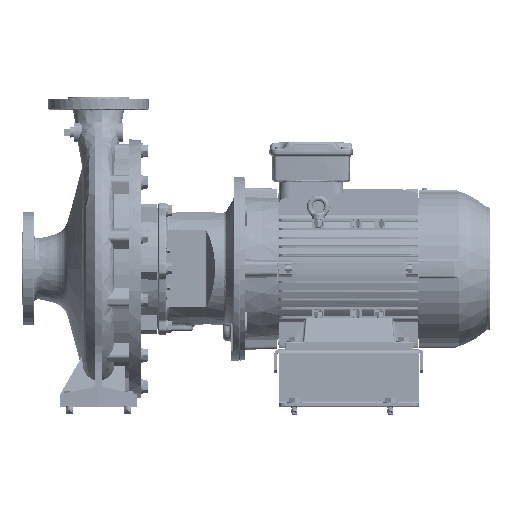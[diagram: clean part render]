
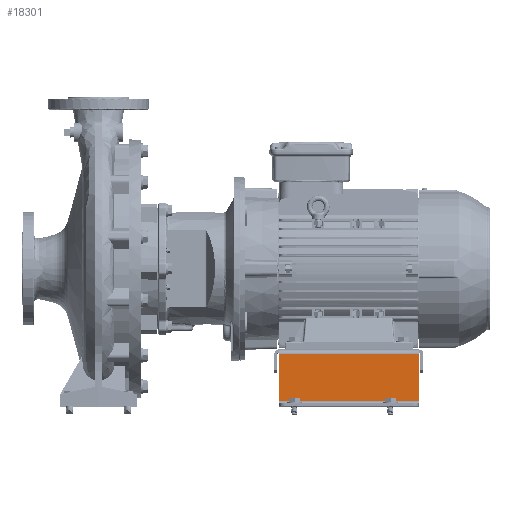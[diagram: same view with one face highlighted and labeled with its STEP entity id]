
A CAD part, top view. The second image highlights one B-rep face of the part: STEP entity #18301.
In plain terms, the highlighted planar face has unit normal (0, 0, 1) as drawn and (1, 0, 0) by its records, which use the part's own axes.
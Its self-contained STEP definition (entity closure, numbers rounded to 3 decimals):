
#10529 = DIRECTION ( 'NONE',  ( 0., 0., -1. ) ) ;
#17570 = CARTESIAN_POINT ( 'NONE',  ( 310., -0.001, -8. ) ) ;
#18301 = ADVANCED_FACE ( 'NONE', ( #109656 ), #121169, .F. ) ;
#26833 = LINE ( 'NONE', #143388, #182202 ) ;
#28842 = EDGE_CURVE ( 'NONE', #156888, #149333, #63434, .T. ) ;
#42030 = LINE ( 'NONE', #97463, #96305 ) ;
#44386 = DIRECTION ( 'NONE',  ( 0., 1., 0. ) ) ;
#48539 = DIRECTION ( 'NONE',  ( -1., 0., 0. ) ) ;
#49485 = CARTESIAN_POINT ( 'NONE',  ( 310., 93., -244.001 ) ) ;
#54114 = VECTOR ( 'NONE', #179931, 1000. ) ;
#58856 = ORIENTED_EDGE ( 'NONE', *, *, #100829, .F. ) ;
#61723 = CARTESIAN_POINT ( 'NONE',  ( 310., 85., -8. ) ) ;
#63434 = LINE ( 'NONE', #178032, #54114 ) ;
#67612 = CARTESIAN_POINT ( 'NONE',  ( 310., 85., -236. ) ) ;
#74242 = ORIENTED_EDGE ( 'NONE', *, *, #99451, .F. ) ;
#74466 = EDGE_CURVE ( 'NONE', #118538, #130542, #42030, .T. ) ;
#87373 = LINE ( 'NONE', #17570, #129717 ) ;
#88447 = CARTESIAN_POINT ( 'NONE',  ( 310., 8., -8. ) ) ;
#96305 = VECTOR ( 'NONE', #10529, 1000. ) ;
#97463 = CARTESIAN_POINT ( 'NONE',  ( 310., 8., -236. ) ) ;
#99451 = EDGE_CURVE ( 'NONE', #118538, #149333, #87373, .T. ) ;
#100829 = EDGE_CURVE ( 'NONE', #156888, #130542, #26833, .T. ) ;
#109656 = FACE_OUTER_BOUND ( 'NONE', #147180, .T. ) ;
#115908 = AXIS2_PLACEMENT_3D ( 'NONE', #49485, #48539, #179367 ) ;
#116440 = ORIENTED_EDGE ( 'NONE', *, *, #74466, .T. ) ;
#118538 = VERTEX_POINT ( 'NONE', #88447 ) ;
#121169 = PLANE ( 'NONE',  #115908 ) ;
#127273 = CARTESIAN_POINT ( 'NONE',  ( 310., 8., -236. ) ) ;
#129717 = VECTOR ( 'NONE', #44386, 1000. ) ;
#130542 = VERTEX_POINT ( 'NONE', #127273 ) ;
#143388 = CARTESIAN_POINT ( 'NONE',  ( 310., -0.001, -236. ) ) ;
#147180 = EDGE_LOOP ( 'NONE', ( #58856, #171815, #74242, #116440 ) ) ;
#149333 = VERTEX_POINT ( 'NONE', #61723 ) ;
#154851 = DIRECTION ( 'NONE',  ( 0., -1., 0. ) ) ;
#156888 = VERTEX_POINT ( 'NONE', #67612 ) ;
#171815 = ORIENTED_EDGE ( 'NONE', *, *, #28842, .T. ) ;
#178032 = CARTESIAN_POINT ( 'NONE',  ( 310., 85., -8. ) ) ;
#179367 = DIRECTION ( 'NONE',  ( 0., 0., 1. ) ) ;
#179931 = DIRECTION ( 'NONE',  ( 0., 0., 1. ) ) ;
#182202 = VECTOR ( 'NONE', #154851, 1000. ) ;
